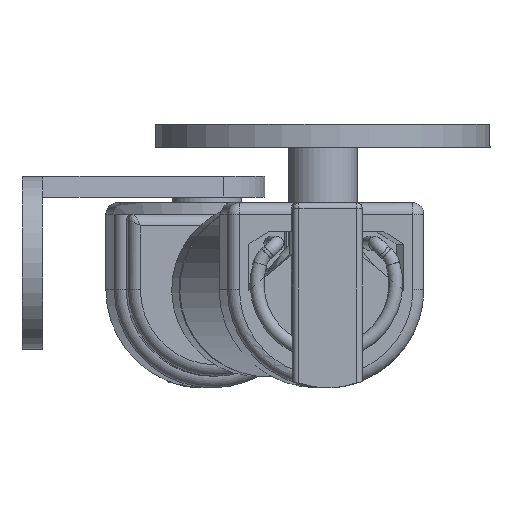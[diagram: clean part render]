
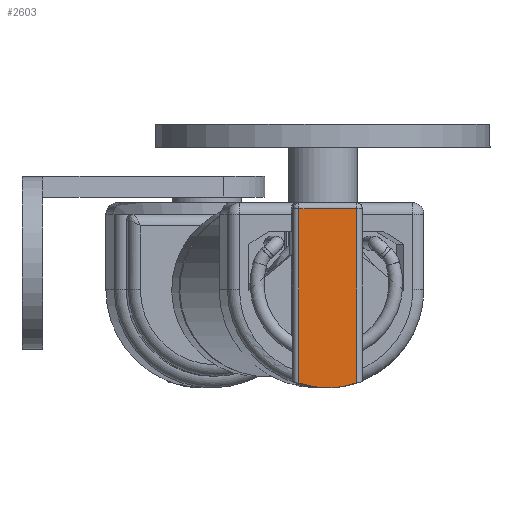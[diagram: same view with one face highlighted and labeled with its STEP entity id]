
A CAD part, front view. The second image highlights one B-rep face of the part: STEP entity #2603.
In plain terms, the highlighted planar face has unit normal (0.04, -0.999, 0) as drawn and (0, 1, 0) by its records, which use the part's own axes.
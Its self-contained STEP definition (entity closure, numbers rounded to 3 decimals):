
#141=LINE('',#4335,#343);
#143=LINE('',#4345,#345);
#146=LINE('',#4361,#348);
#343=VECTOR('',#3398,10.);
#345=VECTOR('',#3410,10.);
#348=VECTOR('',#3415,10.);
#614=FACE_OUTER_BOUND('',#774,.T.);
#774=EDGE_LOOP('',(#1864,#1865,#1866,#1867));
#960=CIRCLE('',#2948,8.5);
#1117=VERTEX_POINT('',#4319);
#1119=VERTEX_POINT('',#4324);
#1122=VERTEX_POINT('',#4341);
#1123=VERTEX_POINT('',#4348);
#1389=EDGE_CURVE('',#1119,#1117,#141,.T.);
#1394=EDGE_CURVE('',#1117,#1122,#143,.T.);
#1398=EDGE_CURVE('',#1122,#1123,#146,.T.);
#1405=EDGE_CURVE('',#1123,#1119,#960,.T.);
#1864=ORIENTED_EDGE('',*,*,#1398,.F.);
#1865=ORIENTED_EDGE('',*,*,#1394,.F.);
#1866=ORIENTED_EDGE('',*,*,#1389,.F.);
#1867=ORIENTED_EDGE('',*,*,#1405,.F.);
#2434=PLANE('',#2947);
#2603=ADVANCED_FACE('',(#614),#2434,.T.);
#2947=AXIS2_PLACEMENT_3D('',#4392,#3424,#3425);
#2948=AXIS2_PLACEMENT_3D('',#4393,#3426,#3427);
#3398=DIRECTION('',(0.,0.,1.));
#3410=DIRECTION('',(-1.,0.,0.));
#3415=DIRECTION('',(0.,0.,-1.));
#3424=DIRECTION('center_axis',(0.,1.,0.));
#3425=DIRECTION('ref_axis',(1.,0.,0.));
#3426=DIRECTION('center_axis',(0.,-1.,0.));
#3427=DIRECTION('ref_axis',(1.,0.,0.));
#4319=CARTESIAN_POINT('',(2.5,11.5,-6.5));
#4324=CARTESIAN_POINT('',(2.5,11.5,-21.624));
#4335=CARTESIAN_POINT('',(2.5,11.5,-6.));
#4341=CARTESIAN_POINT('',(-2.5,11.5,-6.5));
#4345=CARTESIAN_POINT('',(-4.25,11.5,-6.5));
#4348=CARTESIAN_POINT('',(-2.5,11.5,-21.624));
#4361=CARTESIAN_POINT('',(-2.5,11.5,-6.));
#4392=CARTESIAN_POINT('Origin',(-8.5,11.5,-6.));
#4393=CARTESIAN_POINT('Origin',(0.,11.5,-13.5));
